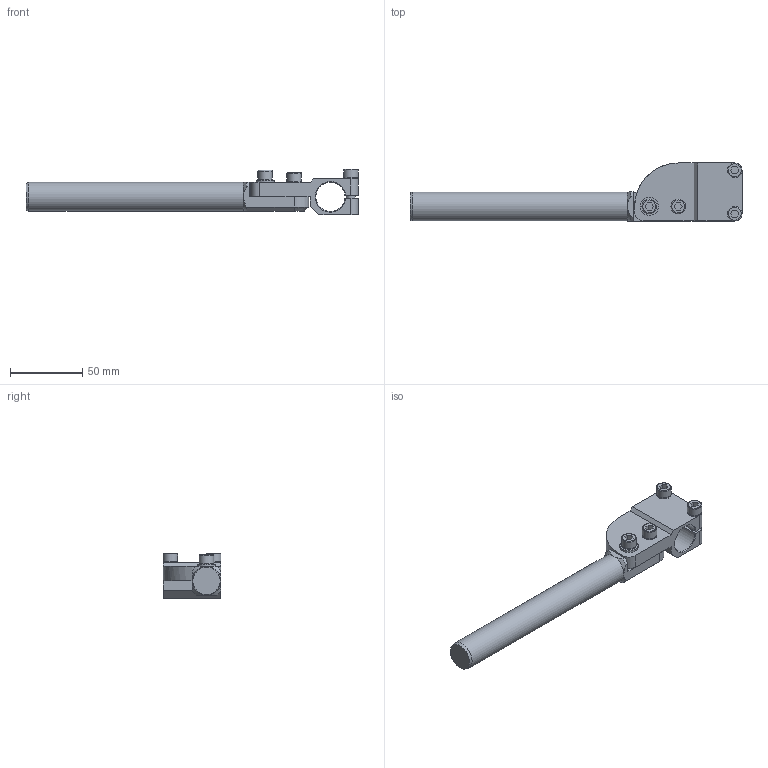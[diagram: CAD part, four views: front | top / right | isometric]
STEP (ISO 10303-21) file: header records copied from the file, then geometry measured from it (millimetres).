
FILE_DESCRIPTION(/* description */ (''),/* implementation_level */ '2;1');
FILE_NAME(/* name */ 'W:\Technik\Konstruktion\CAD-Daten\EOAT\GR02_\GR02.318\Kundenzeichnungen\GR02.318-Kd.stp',/* time_stamp */ '2019-02-07T09:14:38+01:00',/* author */ ('Rkob'),/* organization */ (''),/* preprocessor_version */ 'ST-DEVELOPER v16.13',/* originating_system */ 'Autodesk Inventor 2018',/* authorisation */ '');
FILE_SCHEMA (('AUTOMOTIVE_DESIGN { 1 0 10303 214 3 1 1 }'));
Length unit declared in the file: millimetre
Products named in the file (1): GR02.318_Shrinkwrap_1
Bounding box: 229 x 40 x 31.7 mm (x, y, z)
Volume: 90684.8 mm3; surface area: 23959.9 mm2
Topology: 1 solids, 1 shells, 87 faces, 218 edges, 140 vertices
Faces by surface type: plane 58, cylinder 20, cone 5, torus 4
Full cylindrical faces by diameter (mm): 6 x2, 10 x8, 12.5 x1, 19.95 x1
Entity records: 2608 total; most frequent: CARTESIAN_POINT 448, DIRECTION 411, ORIENTED_EDGE 396, EDGE_CURVE 198, VERTEX_POINT 138, LINE 137, VECTOR 137, AXIS2_PLACEMENT_3D 137
